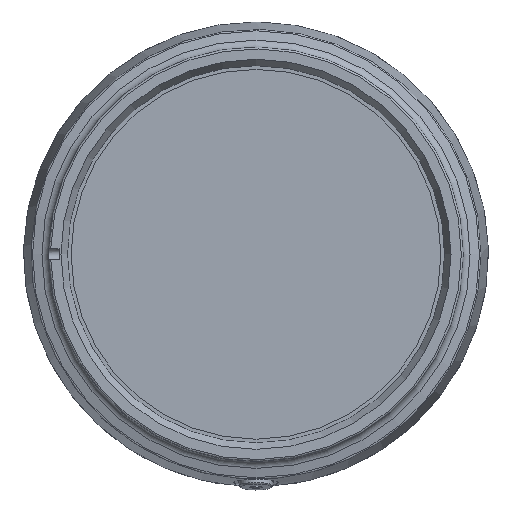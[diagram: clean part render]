
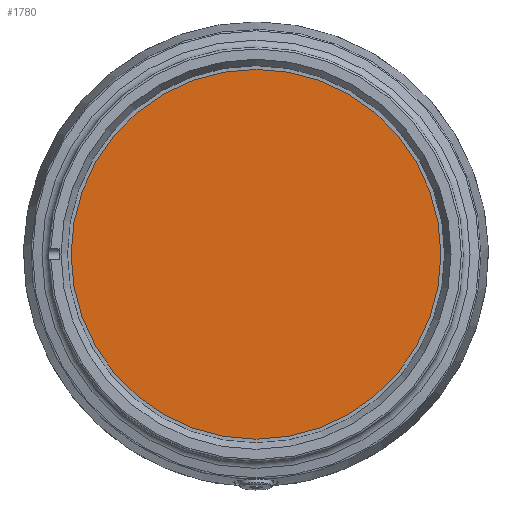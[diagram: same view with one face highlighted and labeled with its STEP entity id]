
A CAD part, left-side view. The second image highlights one B-rep face of the part: STEP entity #1780.
In plain terms, the highlighted planar face has unit normal (-1, 0, 0).
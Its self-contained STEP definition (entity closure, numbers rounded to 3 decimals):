
#153 = DIRECTION ( 'NONE',  ( 0., -1., 0. ) ) ;
#646 = FACE_OUTER_BOUND ( 'NONE', #6409, .T. ) ;
#1709 = VERTEX_POINT ( 'NONE', #5623 ) ;
#1780 = ADVANCED_FACE ( 'NONE', ( #646 ), #5090, .F. ) ;
#2137 = CARTESIAN_POINT ( 'NONE',  ( 1821.498, 0., 2525. ) ) ;
#2374 = EDGE_CURVE ( 'NONE', #1709, #1709, #3121, .T. ) ;
#3121 = CIRCLE ( 'NONE', #7395, 99.5 ) ;
#4447 = DIRECTION ( 'NONE',  ( 1., 0., 0. ) ) ;
#5090 = PLANE ( 'NONE',  #7238 ) ;
#5623 = CARTESIAN_POINT ( 'NONE',  ( 1821.498, -99.5, 2525. ) ) ;
#6305 = DIRECTION ( 'NONE',  ( 0., 1., 0. ) ) ;
#6409 = EDGE_LOOP ( 'NONE', ( #7450 ) ) ;
#7238 = AXIS2_PLACEMENT_3D ( 'NONE', #8287, #4447, #6305 ) ;
#7395 = AXIS2_PLACEMENT_3D ( 'NONE', #2137, #7943, #153 ) ;
#7450 = ORIENTED_EDGE ( 'NONE', *, *, #2374, .T. ) ;
#7943 = DIRECTION ( 'NONE',  ( -1., 0., 0. ) ) ;
#8287 = CARTESIAN_POINT ( 'NONE',  ( 1821.498, 0., 2622. ) ) ;
